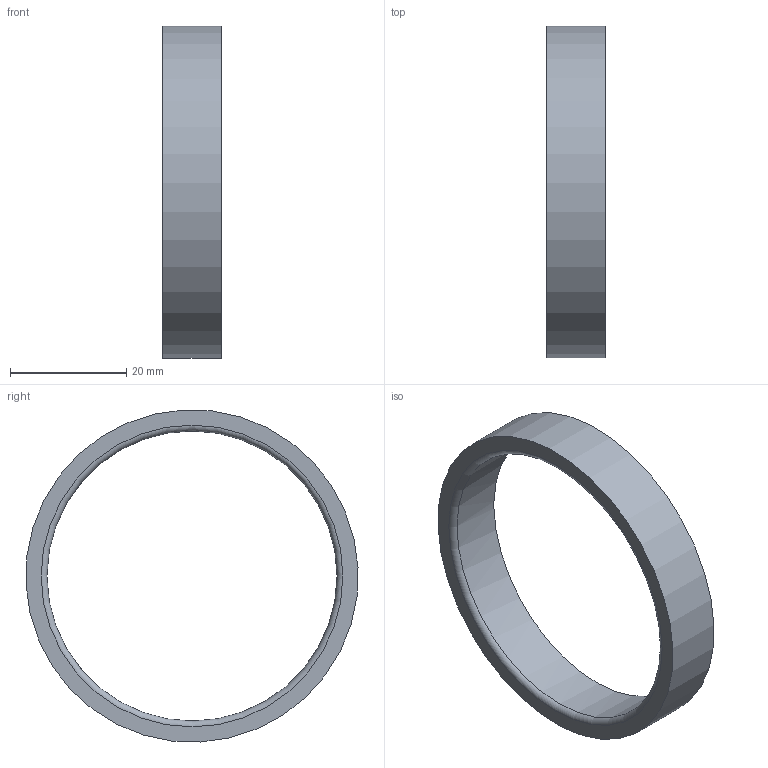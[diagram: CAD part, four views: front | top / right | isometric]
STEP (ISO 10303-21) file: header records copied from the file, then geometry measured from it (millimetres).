
FILE_DESCRIPTION((''),'2;1');
FILE_NAME('K:\Daten\20-90.stp','2014-05-16T14:35:39',('kamp'),(''),'Autodesk Inventor 2008','Autodesk Inventor 2008','');
FILE_SCHEMA(('AUTOMOTIVE_DESIGN { 1 0 10303 214 1 1 1 1 }'));
Length unit declared in the file: millimetre
Products named in the file (1): Bauteil1
Bounding box: 10 x 57.22 x 57.22 mm (x, y, z)
Volume: 6117.5 mm3; surface area: 4538.1 mm2
Topology: 1 solids, 1 shells, 61 faces, 164 edges, 109 vertices
Faces by surface type: plane 38, bspline 20, cylinder 2, torus 1
Full cylindrical faces by diameter (mm): 50 x1, 57.3 x1
Entity records: 2059 total; most frequent: CARTESIAN_POINT 550, ORIENTED_EDGE 320, DIRECTION 220, EDGE_CURVE 160, VECTOR 120, LINE 120, VERTEX_POINT 108, EDGE_LOOP 70
